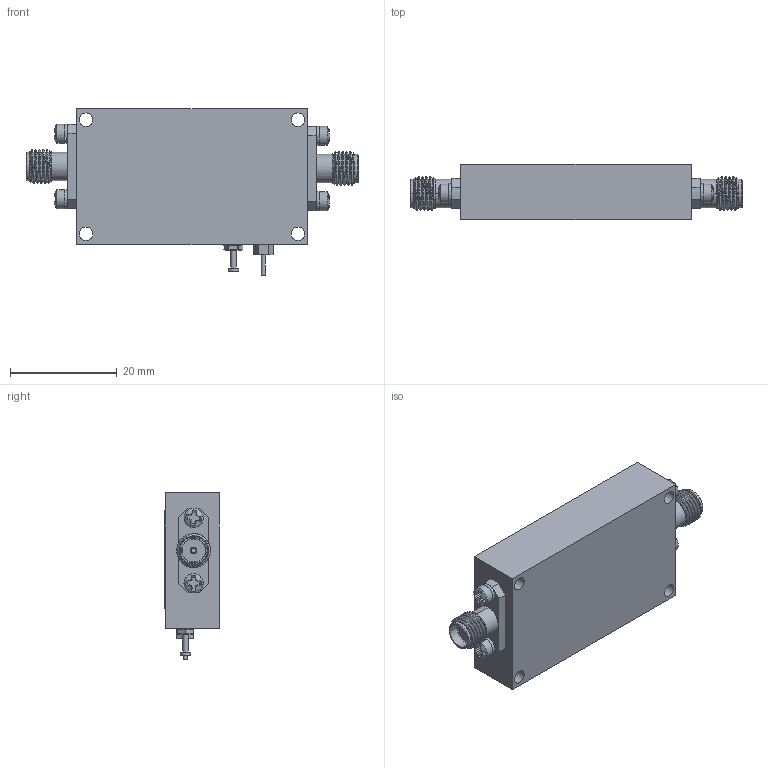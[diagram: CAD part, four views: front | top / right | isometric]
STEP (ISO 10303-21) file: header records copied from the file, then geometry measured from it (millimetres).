
FILE_DESCRIPTION (( 'STEP AP214' ), '1' );
FILE_NAME ('PEC-27-10M1G-1R6-25-12-SFF.STEP', '2025-01-20T15:30:57', ( '' ), ( '' ), 'SwSTEP 2.0', 'SolidWorks 2024', '' );
FILE_SCHEMA (( 'AUTOMOTIVE_DESIGN' ));
Length unit declared in the file: inch
Products named in the file (1): PEC-27-10M1G-1R6-25-12-SFF
Bounding box: 62.08 x 10.26 x 31.11 mm (x, y, z)
Volume: 11772.4 mm3; surface area: 6879 mm2
Topology: 23 solids, 23 shells, 621 faces, 2530 edges, 2120 vertices
Faces by surface type: plane 371, cylinder 128, cone 66, sphere 28, bspline 18, torus 10
Full cylindrical faces by diameter (mm): 0.305 x2, 0.813 x2, 1.067 x1, 1.93 x1, 2.184 x5, 2.527 x4, 2.845 x1, 3.556 x4
Entity records: 42778 total; most frequent: CARTESIAN_POINT 13853, ORIENTED_EDGE 4966, DIRECTION 3478, EDGE_CURVE 2483, VERTEX_POINT 2115, VECTOR 1326, LINE 1326, AXIS2_PLACEMENT_3D 1076
